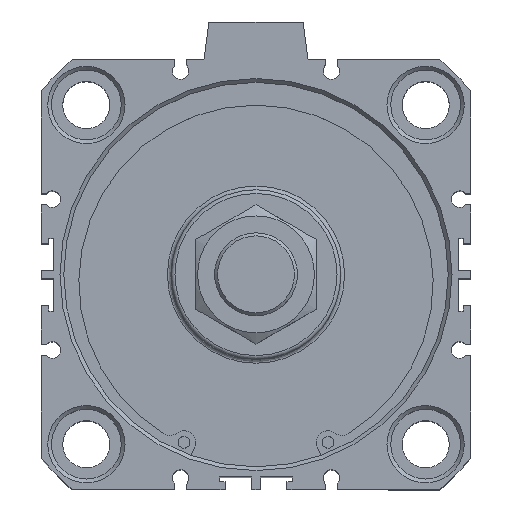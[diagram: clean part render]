
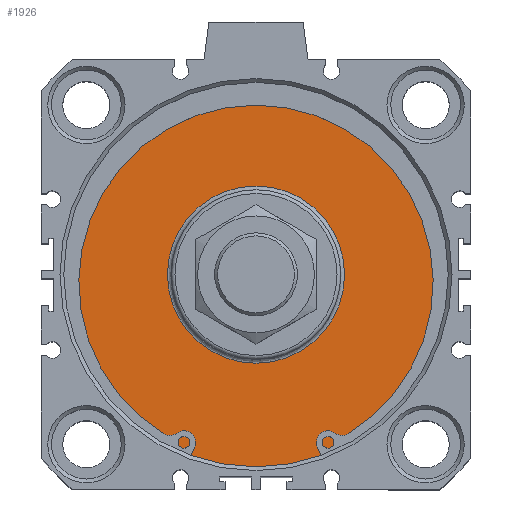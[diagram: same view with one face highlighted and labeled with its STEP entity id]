
A CAD part, top view. The second image highlights one B-rep face of the part: STEP entity #1926.
In plain terms, the highlighted planar face has unit normal (0, 0, 1).
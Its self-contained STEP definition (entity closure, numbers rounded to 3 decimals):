
#1875=CARTESIAN_POINT('',(-3.11,25.175,77.6));
#1876=VERTEX_POINT('',#1875);
#1877=CARTESIAN_POINT('',(-3.11,1.675,77.6));
#1878=DIRECTION('',(0.0,0.0,1.0));
#1879=DIRECTION('',(0.0,-1.0,0.0));
#1880=AXIS2_PLACEMENT_3D('',#1877,#1878,#1879);
#1881=CIRCLE('',#1880,23.5);
#1882=EDGE_CURVE('',#1876,#1876,#1881,.T.);
#1907=CARTESIAN_POINT('',(-3.11,38.425,77.6));
#1908=DIRECTION('',(0.0,0.0,1.0));
#1909=DIRECTION('',(1.0,0.0,0.0));
#1910=AXIS2_PLACEMENT_3D('',#1907,#1908,#1909);
#1911=PLANE('',#1910);
#1912=CARTESIAN_POINT('',(-3.11,52.675,77.6));
#1913=VERTEX_POINT('',#1912);
#1914=CARTESIAN_POINT('',(-3.11,1.675,77.6));
#1915=DIRECTION('',(0.0,0.0,-1.0));
#1916=DIRECTION('',(0.0,1.0,0.0));
#1917=AXIS2_PLACEMENT_3D('',#1914,#1915,#1916);
#1918=CIRCLE('',#1917,51.);
#1919=EDGE_CURVE('',#1913,#1913,#1918,.T.);
#1920=ORIENTED_EDGE('',*,*,#1919,.F.);
#1921=EDGE_LOOP('',(#1920));
#1922=FACE_OUTER_BOUND('',#1921,.T.);
#1923=ORIENTED_EDGE('',*,*,#1882,.F.);
#1924=EDGE_LOOP('',(#1923));
#1925=FACE_BOUND('',#1924,.T.);
#1926=ADVANCED_FACE('',(#1922,#1925),#1911,.T.);
